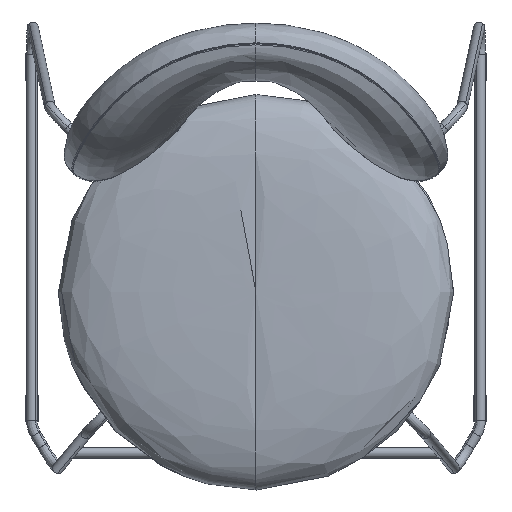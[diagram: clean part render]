
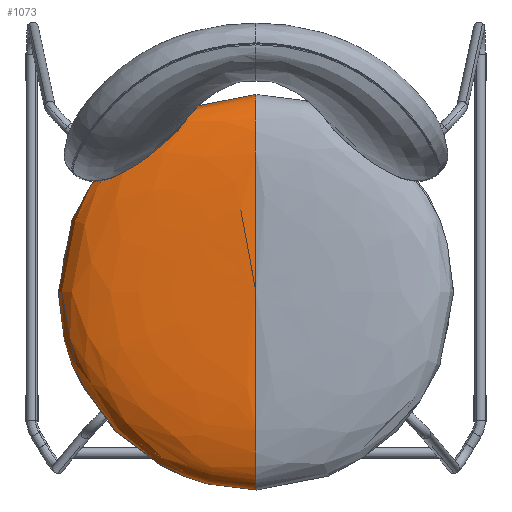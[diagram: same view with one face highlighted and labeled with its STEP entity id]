
A CAD part, top view. The second image highlights one B-rep face of the part: STEP entity #1073.
In plain terms, the highlighted free-form (B-spline) face has degree [3, 2] with [8, 5] control points.
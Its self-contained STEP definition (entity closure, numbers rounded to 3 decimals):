
#1073=ADVANCED_FACE('',(#1293),#5233,.T.);
#1293=FACE_OUTER_BOUND('',#1513,.T.);
#1513=EDGE_LOOP('',(#2438,#2439));
#2438=ORIENTED_EDGE('',*,*,#3297,.T.);
#2439=ORIENTED_EDGE('',*,*,#3296,.F.);
#3296=EDGE_CURVE('',#5154,#5155,#4368,.T.);
#3297=EDGE_CURVE('',#5154,#5155,#4369,.T.);
#4368=B_SPLINE_CURVE_WITH_KNOTS('',3,(#59703,#59704,#59705,#59706,#59707,
#59708,#59709,#59710),.UNSPECIFIED.,.F.,.F.,(4,3,1,4),(-265.,
0.,117.5,235.),.UNSPECIFIED.);
#4369=B_SPLINE_CURVE_WITH_KNOTS('',3,(#59711,#59712,#59713,#59714,#59715,
#59716,#59717,#59718),.UNSPECIFIED.,.F.,.F.,(4,3,1,4),(-265.,
0.,117.5,235.),.UNSPECIFIED.);
#5154=VERTEX_POINT('',#59701);
#5155=VERTEX_POINT('',#59702);
#5233=(
BOUNDED_SURFACE()
B_SPLINE_SURFACE(3,2,((#59661,#59662,#59663,#59664,#59665),(#59666,#59667,
#59668,#59669,#59670),(#59671,#59672,#59673,#59674,#59675),(#59676,#59677,
#59678,#59679,#59680),(#59681,#59682,#59683,#59684,#59685),(#59686,#59687,
#59688,#59689,#59690),(#59691,#59692,#59693,#59694,#59695),(#59696,#59697,
#59698,#59699,#59700)),.UNSPECIFIED.,.F.,.F.,.F.)
B_SPLINE_SURFACE_WITH_KNOTS((4,3,1,4),(3,2,3),(-265.,0.,117.5,
235.),(691.148,1036.723,1382.297),
 .UNSPECIFIED.)
GEOMETRIC_REPRESENTATION_ITEM()
RATIONAL_B_SPLINE_SURFACE(((1.,0.707,1.,0.707,1.),
(1.,0.707,1.,0.707,1.),(1.,0.707,1.,
0.707,1.),(1.,0.707,1.,0.707,1.),(1.,
0.707,1.,0.707,1.),(1.,0.707,1.,0.707,
1.),(1.,0.707,1.,0.707,1.),(1.,0.707,
1.,0.707,1.)))
REPRESENTATION_ITEM('')
SURFACE()
);
#59661=CARTESIAN_POINT('',(2900.353,2728.154,750.));
#59662=CARTESIAN_POINT('',(2900.353,2728.154,750.));
#59663=CARTESIAN_POINT('',(2900.353,2728.154,750.));
#59664=CARTESIAN_POINT('',(2900.353,2728.154,750.));
#59665=CARTESIAN_POINT('',(2900.353,2728.154,750.));
#59666=CARTESIAN_POINT('',(2900.353,2866.534,750.));
#59667=CARTESIAN_POINT('',(2761.973,2866.534,750.));
#59668=CARTESIAN_POINT('',(2761.973,2728.154,750.));
#59669=CARTESIAN_POINT('',(2761.973,2589.774,750.));
#59670=CARTESIAN_POINT('',(2900.353,2589.774,750.));
#59671=CARTESIAN_POINT('',(2900.353,2948.154,750.));
#59672=CARTESIAN_POINT('',(2680.353,2948.154,750.));
#59673=CARTESIAN_POINT('',(2680.353,2728.154,750.));
#59674=CARTESIAN_POINT('',(2680.353,2508.154,750.));
#59675=CARTESIAN_POINT('',(2900.353,2508.154,750.));
#59676=CARTESIAN_POINT('',(2900.353,2948.154,705.));
#59677=CARTESIAN_POINT('',(2680.353,2948.154,705.));
#59678=CARTESIAN_POINT('',(2680.353,2728.154,705.));
#59679=CARTESIAN_POINT('',(2680.353,2508.154,705.));
#59680=CARTESIAN_POINT('',(2900.353,2508.154,705.));
#59681=CARTESIAN_POINT('',(2900.353,2948.154,690.));
#59682=CARTESIAN_POINT('',(2680.353,2948.154,690.));
#59683=CARTESIAN_POINT('',(2680.353,2728.154,690.));
#59684=CARTESIAN_POINT('',(2680.353,2508.154,690.));
#59685=CARTESIAN_POINT('',(2900.353,2508.154,690.));
#59686=CARTESIAN_POINT('',(2900.353,2933.433,690.));
#59687=CARTESIAN_POINT('',(2695.074,2933.433,690.));
#59688=CARTESIAN_POINT('',(2695.074,2728.154,690.));
#59689=CARTESIAN_POINT('',(2695.074,2522.874,690.));
#59690=CARTESIAN_POINT('',(2900.353,2522.874,690.));
#59691=CARTESIAN_POINT('',(2900.353,2897.272,690.));
#59692=CARTESIAN_POINT('',(2731.235,2897.272,690.));
#59693=CARTESIAN_POINT('',(2731.235,2728.154,690.));
#59694=CARTESIAN_POINT('',(2731.235,2559.036,690.));
#59695=CARTESIAN_POINT('',(2900.353,2559.036,690.));
#59696=CARTESIAN_POINT('',(2900.353,2728.154,690.));
#59697=CARTESIAN_POINT('',(2900.353,2728.154,690.));
#59698=CARTESIAN_POINT('',(2900.353,2728.154,690.));
#59699=CARTESIAN_POINT('',(2900.353,2728.154,690.));
#59700=CARTESIAN_POINT('',(2900.353,2728.154,690.));
#59701=CARTESIAN_POINT('',(2900.353,2728.154,750.));
#59702=CARTESIAN_POINT('',(2900.353,2728.154,690.));
#59703=CARTESIAN_POINT('',(2900.353,2728.154,750.));
#59704=CARTESIAN_POINT('',(2900.353,2589.774,750.));
#59705=CARTESIAN_POINT('',(2900.353,2508.154,750.));
#59706=CARTESIAN_POINT('',(2900.353,2508.154,705.));
#59707=CARTESIAN_POINT('',(2900.353,2508.154,690.));
#59708=CARTESIAN_POINT('',(2900.353,2522.874,690.));
#59709=CARTESIAN_POINT('',(2900.353,2559.036,690.));
#59710=CARTESIAN_POINT('',(2900.353,2728.154,690.));
#59711=CARTESIAN_POINT('',(2900.353,2728.154,750.));
#59712=CARTESIAN_POINT('',(2900.353,2866.534,750.));
#59713=CARTESIAN_POINT('',(2900.353,2948.154,750.));
#59714=CARTESIAN_POINT('',(2900.353,2948.154,705.));
#59715=CARTESIAN_POINT('',(2900.353,2948.154,690.));
#59716=CARTESIAN_POINT('',(2900.353,2933.433,690.));
#59717=CARTESIAN_POINT('',(2900.353,2897.272,690.));
#59718=CARTESIAN_POINT('',(2900.353,2728.154,690.));
